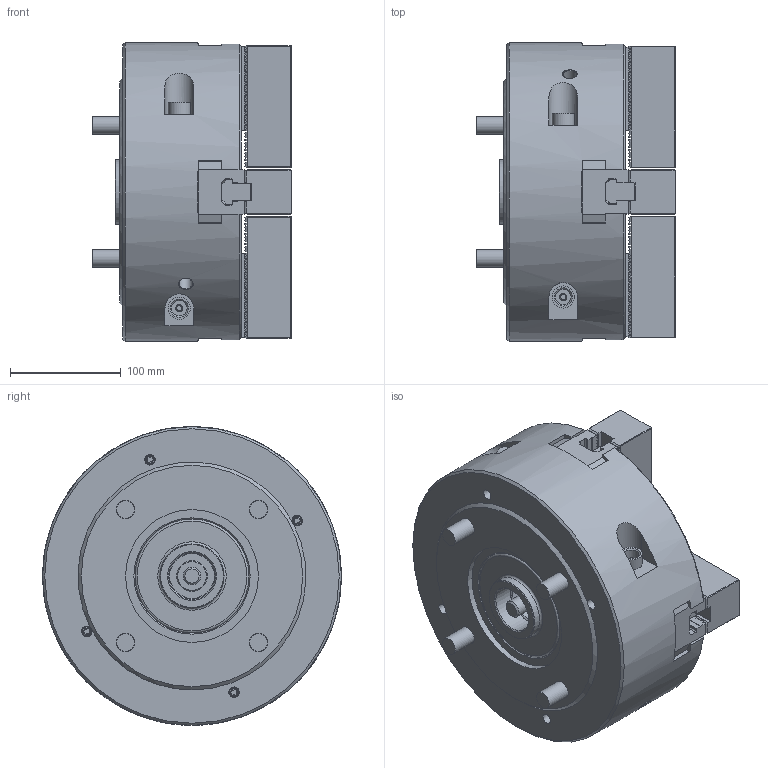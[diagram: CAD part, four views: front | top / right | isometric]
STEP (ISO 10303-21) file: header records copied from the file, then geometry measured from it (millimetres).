
FILE_DESCRIPTION (( 'STEP AP214' ), '1' );
FILE_NAME ('HW-10_61P231392-5_OC.STEP', '2020-03-19T05:34:11', ( '' ), ( '' ), 'SwSTEP 2.0', 'SolidWorks 2017', '' );
FILE_SCHEMA (( 'AUTOMOTIVE_DESIGN' ));
Length unit declared in the file: millimetre
Products named in the file (22): 俛傾僫僣僉 M12x3512x35; 61P400852_俿僫僢僩_b_g_棉太倌I佱UA; HW-10_61P231392-5_OC; Part1^61P231392_HW-10 僋儈僞僥_^_e_棉太倌I佱UA; 61P322999_ソフトジョー_W_‡_[; 61P400852_俿僫僢僩_b_g; Part1^61P231392_HW-10 クミタテ_^_e; 61P322999_ソフトジョー_W_‡_[_ﾃﾞﾌｫﾙﾄ_ATI≪UA; 俛傾僫僣僉 M12x3512x35_B迸路 M12X3512X35
Assembly tree (17 placements, depth 2):
  俛傾僫僣僉 M12x3512x35
  HW-10_61P231392-5_OC
    61P400852_俿僫僢僩_b_g_棉太倌I佱UA  x4
    61P322999_ソフトジョー_W_‡_[_ﾃﾞﾌｫﾙﾄ_ATI≪UA  x4
    俛傾僫僣僉 M12x3512x35_B迸路 M12X3512X35  x8
    Part1^61P231392_HW-10 僋儈僞僥_^_e_棉太倌I佱UA
  61P322999_ソフトジョー_W_‡_[
  俛傾僫僣僉 M12x3512x35
  61P400852_俿僫僢僩_b_g
Bounding box: 179 x 270 x 270 mm (x, y, z)
Volume: 6695274.9 mm3; surface area: 493680.5 mm2
Topology: 17 solids, 21 shells, 3099 faces, 8677 edges, 5751 vertices
Faces by surface type: plane 2752, cylinder 169, bspline 85, cone 59, torus 34
Full cylindrical faces by diameter (mm): 5 x4, 5.5 x4, 8 x4, 8.5 x4, 9.5 x8, 10.2 x10, 12 x18, 13 x12, 14 x8, 16 x5, 17 x4, 18 x8, 19 x8, 20 x4, 24 x4, 25 x4, 28 x1, 40.376 x1, 42 x1, 51.876 x1, 58 x1, 103 x1, 120 x1, 270 x1
Entity records: 72828 total; most frequent: CARTESIAN_POINT 16668, ORIENTED_EDGE 11986, DIRECTION 10434, EDGE_CURVE 5993, VECTOR 5372, LINE 5372, VERTEX_POINT 4041, AXIS2_PLACEMENT_3D 2531
